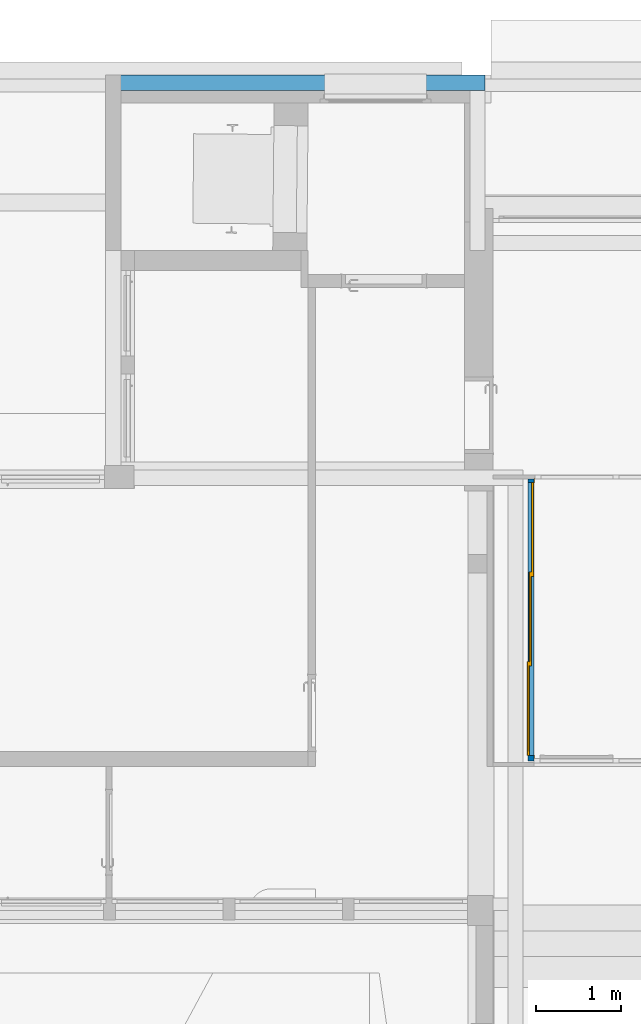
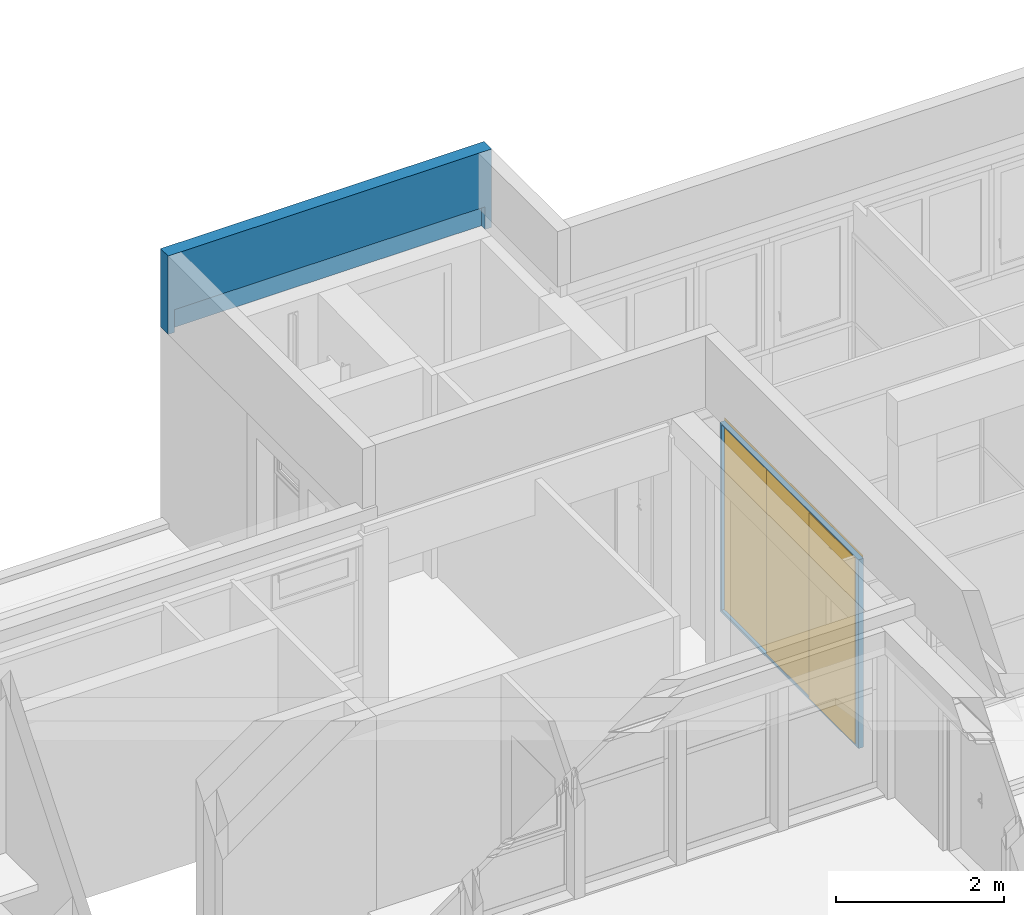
# One storey, part 24 of 49: 2 walls, 1 door, 2 openings.
"""IFC4 building model written with IfcOpenShell, lengths in metres."""

from ifc_helpers import new_model, entity, si_unit, converted_unit, derived_unit, direction, frame, origin, place, context, subcontext, project, spatial, indexed_curve, outline, extrude, polygons, source, transform, mapped, material, material_list, layer, layer_set, constituent, constituent_set, type_object, type_shapes, element, fill, save


model = new_model("IFC4")

# Units and contexts
model_context = context("Model", 3, precision=1e-05, world=origin(), true_north=direction((6.12303176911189e-17, 1.0)))
body_context = subcontext(model_context, "Body", "Model", "MODEL_VIEW")
ifc_project = project(units=[si_unit("LENGTHUNIT", "METRE"), si_unit("AREAUNIT", "SQUARE_METRE"), si_unit("VOLUMEUNIT", "CUBIC_METRE"), converted_unit("PLANEANGLEUNIT", "DEGREE", entity("IfcRatioMeasure", 0.0174532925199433), si_unit("PLANEANGLEUNIT", "RADIAN"), dimensions=[0, 0, 0, 0, 0, 0, 0]), si_unit("MASSUNIT", "GRAM", prefix="KILO"), derived_unit("MASSDENSITYUNIT", [(si_unit("MASSUNIT", "GRAM", prefix="KILO"), 1), (si_unit("LENGTHUNIT", "METRE"), -3)]), derived_unit("MOMENTOFINERTIAUNIT", [(si_unit("LENGTHUNIT", "METRE"), 4)]), si_unit("TIMEUNIT", "SECOND"), si_unit("FREQUENCYUNIT", "HERTZ"), si_unit("THERMODYNAMICTEMPERATUREUNIT", "DEGREE_CELSIUS"), derived_unit("THERMALTRANSMITTANCEUNIT", [(si_unit("MASSUNIT", "GRAM", prefix="KILO"), 1), (si_unit("THERMODYNAMICTEMPERATUREUNIT", "KELVIN"), -1), (si_unit("TIMEUNIT", "SECOND"), -3)]), derived_unit("VOLUMETRICFLOWRATEUNIT", [(si_unit("LENGTHUNIT", "METRE"), 3), (si_unit("TIMEUNIT", "SECOND"), -1)]), si_unit("ELECTRICCURRENTUNIT", "AMPERE"), si_unit("ELECTRICVOLTAGEUNIT", "VOLT"), si_unit("POWERUNIT", "WATT"), si_unit("FORCEUNIT", "NEWTON", prefix="KILO"), si_unit("ILLUMINANCEUNIT", "LUX"), si_unit("LUMINOUSFLUXUNIT", "LUMEN"), si_unit("LUMINOUSINTENSITYUNIT", "CANDELA"), derived_unit("USERDEFINED", [(si_unit("MASSUNIT", "GRAM", prefix="KILO"), -1), (si_unit("LENGTHUNIT", "METRE"), -2), (si_unit("TIMEUNIT", "SECOND"), 3), (si_unit("LUMINOUSFLUXUNIT", "LUMEN"), 1)]), derived_unit("LINEARVELOCITYUNIT", [(si_unit("LENGTHUNIT", "METRE"), 1), (si_unit("TIMEUNIT", "SECOND"), -1)]), si_unit("PRESSUREUNIT", "PASCAL"), derived_unit("USERDEFINED", [(si_unit("LENGTHUNIT", "METRE"), -2), (si_unit("MASSUNIT", "GRAM", prefix="KILO"), 1), (si_unit("TIMEUNIT", "SECOND"), -2)]), derived_unit("LINEARFORCEUNIT", [(si_unit("MASSUNIT", "GRAM", prefix="KILO"), 1), (si_unit("LENGTHUNIT", "METRE"), 1), (si_unit("TIMEUNIT", "SECOND"), -2), (si_unit("LENGTHUNIT", "METRE"), -1)]), derived_unit("PLANARFORCEUNIT", [(si_unit("MASSUNIT", "GRAM", prefix="KILO"), 1), (si_unit("LENGTHUNIT", "METRE"), 1), (si_unit("TIMEUNIT", "SECOND"), -2), (si_unit("LENGTHUNIT", "METRE"), -2)])], contexts=[model_context])

# Site, building, storey
site_placement = place(None, origin())
site = spatial("IfcSite", under=ifc_project, at=site_placement, Name="Default", CompositionType="ELEMENT")
building_placement = place(site_placement, origin())
building = spatial("IfcBuilding", under=site, at=building_placement, Name="HOTEL CONSULAIRE BOULOGNE SUR MER", CompositionType="ELEMENT")
storey_placement = place(building_placement, frame((0.0, 0.0, 6.81974152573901)))
storey = spatial("IfcBuildingStorey", under=building, at=storey_placement, Name="Niveau 2", CompositionType="ELEMENT", Elevation=6.81974152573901)

# Wall, opening, door
ifc_material_1 = material(Name="Mur par défaut", Category="Divers")
ifc_layer_1 = layer(ifc_material_1, 0.07, Name="Mur par défaut", Category="Divers")
ifc_layer_set_1 = layer_set([ifc_layer_1], Name="Mur de base:Générique - Int. 70 mm")
wall_type_1 = type_object("IfcWallType", Name="Mur de base:Générique - Int. 70 mm", PredefinedType="NOTDEFINED", material=ifc_layer_set_1)
wall_1_placement = place(storey_placement, frame((12.1204672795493, -17.9553078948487, -0.0350000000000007), z_axis=(0.0, 0.0, 1.0), x_axis=(0.0, 1.0, 0.0)))
wall_1 = element("IfcWall", 1, at=wall_1_placement, inside=storey, type_object=wall_type_1, material=ifc_layer_set_1, Name="Mur de base:Générique - Int. 70 mm", ObjectType="Mur de base:Générique - Int. 70 mm", PredefinedType="NOTDEFINED", context=body_context, shape_type="Tessellation", body=[
    polygons([(0.0, -0.0349999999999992, 1.08286712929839e-15), (3.30288410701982, -0.0349999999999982, 1.08286712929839e-15), (3.30288410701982, -0.0349999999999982, 2.747), (0.0, -0.0349999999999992, 2.747), (3.26394205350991, -0.0349999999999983, 0.0350000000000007), (0.0639420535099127, -0.034999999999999, 0.0350000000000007), (0.0639420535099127, -0.034999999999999, 2.73499999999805), (3.26394205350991, -0.0349999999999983, 2.73499999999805), (0.0, 0.0350000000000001, 1.08286712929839e-15), (0.0, 0.0350000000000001, 2.747), (3.30288410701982, 0.0350000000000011, 2.747), (3.30288410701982, 0.0350000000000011, 1.08286712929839e-15), (3.26394205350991, 0.035000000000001, 0.0350000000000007), (3.26394205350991, 0.035000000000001, 2.73499999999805), (0.0639420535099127, 0.0350000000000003, 2.73499999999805), (0.0639420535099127, 0.0350000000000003, 0.0350000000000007)], [[[1, 2, 3, 4], [6, 7, 8, 5]], [[12, 9, 10, 11], [13, 14, 15, 16]], [[2, 1, 9, 12]], [[15, 14, 8, 7]], [[3, 2, 12, 11]], [[16, 15, 7, 6]], [[4, 3, 11, 10]], [[13, 16, 6, 5]], [[1, 4, 10, 9]], [[14, 13, 5, 8]]], closed=True),
])
opening_1_placement = place(wall_1_placement, frame((3.26394205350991, 0.0349999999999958, 0.0350000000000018)))
opening_1 = element("IfcOpeningElement", 2, at=opening_1_placement, cuts=wall_1, Name="Placard coulissante - 3 panneaux:3.2x2.7:1", ObjectType="Opening", PredefinedType="OPENING", context=body_context, shape_type="SweptSolid", body=[
    extrude(outline(indexed_curve([(0.0, 0.0), (2.69999999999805, 0.0), (2.69999999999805, 3.2), (0.0, 3.2), (0.0, 0.0)], self_intersect=False)), frame((0.0, 0.0, 0.0), z_axis=(0.0, -1.0, 0.0), x_axis=(0.0, 0.0, 1.0)), (0.0, 0.0, 1.0), 0.07),
])
ifc_material_2 = material(Name="Placard - Profil", Category="Divers")
ifc_constituent_1 = constituent(ifc_material_2, Name="Placard - Profil", Category="Matériaux")
ifc_material_3 = material(Name="Placard - Encadrement", Category="Divers")
ifc_constituent_2 = constituent(ifc_material_3, Name="Placard - Encadrement", Category="Matériaux")
ifc_material_4 = material(Name="Placard - Porte", Category="Divers")
ifc_constituent_3 = constituent(ifc_material_4, Name="Placard - Porte", Category="Matériaux")
ifc_constituent_set = constituent_set(constituents=[ifc_constituent_1, ifc_constituent_2, ifc_constituent_3], Name="MaterialConstituentSet")
ifc_material_list = material_list([ifc_material_3, ifc_material_2, ifc_material_4])
door_type = type_object("IfcDoorType", Name="Placard coulissante - 3 panneaux:3.2x2.7", OperationType="SLIDING_TO_RIGHT", PredefinedType="DOOR", material=ifc_material_list)
shared_shape = source(origin(), body_context, "Body", "SweptSolid", [
    extrude(outline(indexed_curve([(-0.0250000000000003, -0.00100000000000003), (0.0249999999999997, -0.00100000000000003), (0.0249999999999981, 0.00100000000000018), (0.0200162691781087, 0.00152388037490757), (0.0150216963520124, 0.0019316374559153), (0.0100189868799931, 0.00222305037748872), (0.00501085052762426, 0.00239796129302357), (1.08286712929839e-15, 0.00245627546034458), (-0.0050108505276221, 0.00239796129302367), (-0.0100189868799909, 0.00222305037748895), (-0.0150216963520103, 0.00193163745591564), (-0.0200162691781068, 0.00152388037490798), (-0.0249999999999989, 0.00100000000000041), (-0.0250000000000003, -0.00100000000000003)], self_intersect=False)), frame((3.175, 0.00899999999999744, 0.0), z_axis=(0.0, 0.0, 1.0), x_axis=(-1.0, 0.0, 0.0)), (0.0, 0.0, 1.0), 2.1),
    extrude(outline(indexed_curve([(-0.0250000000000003, -0.00100000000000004), (0.0249999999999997, -0.00100000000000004), (0.0249999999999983, 0.00100000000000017), (0.0200162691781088, 0.00152388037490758), (0.0150216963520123, 0.00193163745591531), (0.0100189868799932, 0.00222305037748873), (0.00501085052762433, 0.00239796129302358), (9.47508738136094e-16, 0.00245627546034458), (-0.00501085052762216, 0.00239796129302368), (-0.0100189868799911, 0.00222305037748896), (-0.0150216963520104, 0.00193163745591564), (-0.0200162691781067, 0.00152388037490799), (-0.0249999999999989, 0.00100000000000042), (-0.0250000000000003, -0.00100000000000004)], self_intersect=False)), frame((2.125, 0.00900000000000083, 0.0), z_axis=(0.0, 0.0, 1.0), x_axis=(-1.0, 0.0, 0.0)), (0.0, 0.0, 1.0), 2.1),
    extrude(outline(indexed_curve([(-0.0250000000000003, -0.00100000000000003), (0.0249999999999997, -0.00100000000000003), (0.0249999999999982, 0.00100000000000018), (0.0200162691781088, 0.00152388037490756), (0.0150216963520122, 0.00193163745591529), (0.0100189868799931, 0.00222305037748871), (0.00501085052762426, 0.00239796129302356), (8.79829542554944e-16, 0.00245627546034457), (-0.00501085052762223, 0.00239796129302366), (-0.0100189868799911, 0.00222305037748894), (-0.0150216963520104, 0.00193163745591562), (-0.0200162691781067, 0.00152388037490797), (-0.024999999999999, 0.0010000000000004), (-0.0250000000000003, -0.00100000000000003)], self_intersect=False)), frame((2.125, 0.0340000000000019, 0.0), z_axis=(0.0, 0.0, 1.0), x_axis=(-1.0, 0.0, 0.0)), (0.0, 0.0, 1.0), 2.1),
    extrude(outline(indexed_curve([(-0.0250000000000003, -0.00100000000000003), (0.0249999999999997, -0.00100000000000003), (0.0249999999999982, 0.00100000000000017), (0.0200162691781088, 0.00152388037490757), (0.0150216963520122, 0.00193163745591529), (0.0100189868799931, 0.00222305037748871), (0.00501085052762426, 0.00239796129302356), (8.79829542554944e-16, 0.00245627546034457), (-0.00501085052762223, 0.00239796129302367), (-0.0100189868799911, 0.00222305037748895), (-0.0150216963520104, 0.00193163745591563), (-0.0200162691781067, 0.00152388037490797), (-0.024999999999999, 0.0010000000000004), (-0.0250000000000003, -0.00100000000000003)], self_intersect=False)), frame((1.075, 0.0340000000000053, 0.0), z_axis=(0.0, 0.0, 1.0), x_axis=(-1.0, 0.0, 0.0)), (0.0, 0.0, 1.0), 2.1),
    extrude(outline(indexed_curve([(-0.0250000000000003, -0.00100000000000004), (0.0249999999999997, -0.00100000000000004), (0.0249999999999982, 0.00100000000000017), (0.0200162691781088, 0.00152388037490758), (0.0150216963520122, 0.00193163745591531), (0.0100189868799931, 0.00222305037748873), (0.00501085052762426, 0.00239796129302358), (8.79829542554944e-16, 0.00245627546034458), (-0.00501085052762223, 0.00239796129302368), (-0.0100189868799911, 0.00222305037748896), (-0.0150216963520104, 0.00193163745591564), (-0.0200162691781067, 0.00152388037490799), (-0.024999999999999, 0.00100000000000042), (-0.0250000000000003, -0.00100000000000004)], self_intersect=False)), frame((1.075, 0.0590000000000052, 0.0), z_axis=(0.0, 0.0, 1.0), x_axis=(-1.0, 0.0, 0.0)), (0.0, 0.0, 1.0), 2.1),
    extrude(outline(indexed_curve([(-0.0250000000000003, -0.00100000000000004), (0.0249999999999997, -0.00100000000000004), (0.0249999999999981, 0.00100000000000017), (0.0200162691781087, 0.00152388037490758), (0.0150216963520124, 0.0019316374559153), (0.0100189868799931, 0.00222305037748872), (0.00501085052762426, 0.00239796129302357), (1.08286712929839e-15, 0.00245627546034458), (-0.0050108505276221, 0.00239796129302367), (-0.0100189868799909, 0.00222305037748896), (-0.0150216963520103, 0.00193163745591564), (-0.0200162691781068, 0.00152388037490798), (-0.0249999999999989, 0.00100000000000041), (-0.0250000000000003, -0.00100000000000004)], self_intersect=False)), frame((0.0249999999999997, 0.0590000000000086, 0.0), z_axis=(0.0, 0.0, 1.0), x_axis=(-1.0, 0.0, 0.0)), (0.0, 0.0, 1.0), 2.1),
    extrude(outline(indexed_curve([(-1.36149999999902, -1.648), (1.38649999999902, -1.648), (1.38649999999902, 1.648), (-1.36149999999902, 1.648), (-1.36149999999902, 1.598), (1.33649999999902, 1.598), (1.33649999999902, -1.598), (-1.36149999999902, -1.598), (-1.36149999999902, -1.648)], self_intersect=False)), frame((1.6, -0.00300000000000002, 1.36149999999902), z_axis=(0.0, 1.0, 0.0), x_axis=(0.0, 0.0, 1.0)), (0.0, 0.0, 1.0), 0.00300000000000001),
    extrude(outline(indexed_curve([(-0.0100000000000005, -0.55), (0.0100000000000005, -0.55), (0.0100000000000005, 0.55), (-0.0100000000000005, 0.55), (-0.0100000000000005, -0.55)], self_intersect=False)), frame((2.65, 0.0200000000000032, 0.0), z_axis=(0.0, 0.0, 1.0), x_axis=(0.0, 1.0, 0.0)), (0.0, 0.0, 1.0), 2.7),
    extrude(outline(indexed_curve([(-0.550000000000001, -0.01), (0.550000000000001, -0.01), (0.550000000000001, 0.01), (-0.550000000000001, 0.01), (-0.550000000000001, -0.01)], self_intersect=False)), frame((0.550000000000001, 0.0700000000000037, 0.0), z_axis=(0.0, 0.0, 1.0), x_axis=(-1.0, 0.0, 0.0)), (0.0, 0.0, 1.0), 2.7),
    extrude(outline(indexed_curve([(-0.00999999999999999, -0.549999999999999), (0.00999999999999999, -0.549999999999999), (0.00999999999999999, 0.549999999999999), (-0.00999999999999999, 0.549999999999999), (-0.00999999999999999, -0.549999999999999)], self_intersect=False)), frame((1.6, 0.0450000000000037, 0.0), z_axis=(0.0, 0.0, 1.0), x_axis=(0.0, 1.0, 0.0)), (0.0, 0.0, 1.0), 2.7),
])
type_shapes(door_type, [shared_shape])
door_placement = place(opening_1_placement, frame((-3.2, -0.0699999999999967, 0.0)))
door = element("IfcDoor", 3, at=door_placement, inside=storey, type_object=door_type, material=ifc_constituent_set, Name="Placard coulissante - 3 panneaux:3.2x2.7", ObjectType="Placard coulissante - 3 panneaux:3.2x2.7", OperationType="SLIDING_TO_RIGHT", OverallHeight=2.69999999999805, OverallWidth=3.2, PredefinedType="DOOR", context=body_context, shape_type="MappedRepresentation", body=[
    mapped(shared_shape, transform((0.0, 0.0, 0.0), scale=1.0)),
])
fill(opening_1, door)

# Wall, opening
ifc_layer_2 = layer(ifc_material_1, 0.18, Name="Mur par défaut", Category="Divers")
ifc_layer_set_2 = layer_set([ifc_layer_2], Name="Mur de base:Générique - Int.180")
wall_type_2 = type_object("IfcWallType", Name="Mur de base:Générique - Int.180", PredefinedType="NOTDEFINED", material=ifc_layer_set_2)
wall_2_placement = place(storey_placement, frame((7.12898026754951, -10.00032416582, 2.957)))
wall_2 = element("IfcWall", 4, at=wall_2_placement, inside=storey, type_object=wall_type_2, material=ifc_layer_set_2, Name="Mur de base:Générique - Int.180", ObjectType="Mur de base:Générique - Int.180", PredefinedType="NOTDEFINED", context=body_context, shape_type="SweptSolid", body=[
    extrude(outline(indexed_curve([(4.45197830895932, 0.0899999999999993), (-3.56395639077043e-16, 0.089999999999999), (3.56395639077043e-16, -0.089999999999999), (4.45197830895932, -0.0899999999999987), (4.45197830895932, 0.0899999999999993)], self_intersect=False)), origin(), (0.0, 0.0, 1.0), 1.14040452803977),
])
opening_2_placement = place(storey_placement, frame((7.12898026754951, -10.00032416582, 2.957)))
element("IfcOpeningElement", 5, at=opening_2_placement, cuts=wall_2, Name="Mur de base:Générique - Int.180:1", ObjectType="Opening", PredefinedType="OPENING", context=body_context, shape_type="SweptSolid", body=[
    extrude(outline(indexed_curve([(-0.164999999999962, -0.0450000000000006), (0.165000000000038, -0.0450000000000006), (0.165000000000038, 0.0450000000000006), (-0.165000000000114, 0.0450000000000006), (-0.164999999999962, -0.0450000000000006)], self_intersect=False)), frame((0.0900000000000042, -0.0450000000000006, 0.165000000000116), z_axis=(1.0, 0.0, 0.0), x_axis=(0.0, 0.0, 1.0)), (0.0, 0.0, 1.0), 4.27197830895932),
])

save(model, "model.ifc")
